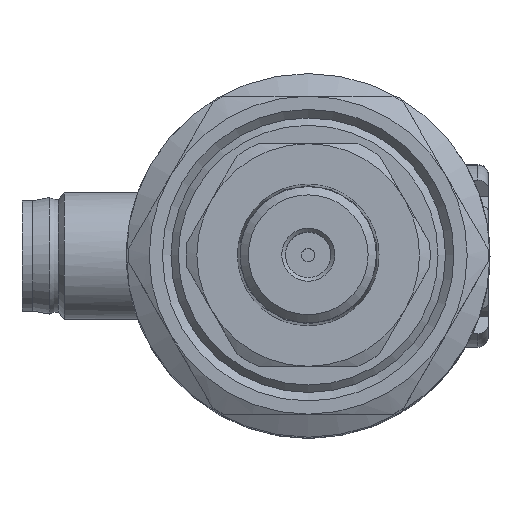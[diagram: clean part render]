
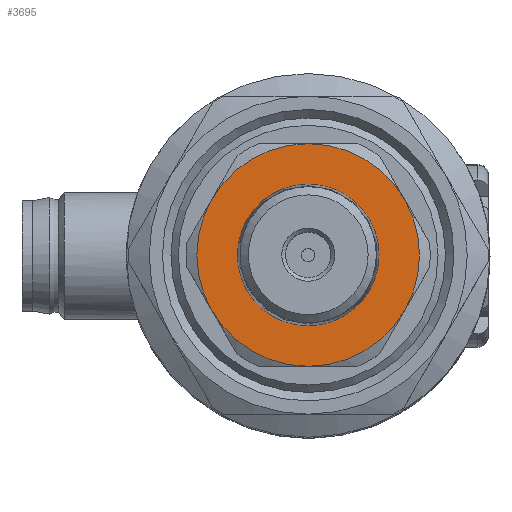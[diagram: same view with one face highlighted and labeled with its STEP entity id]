
A CAD part, top view. The second image highlights one B-rep face of the part: STEP entity #3695.
In plain terms, the highlighted planar face has unit normal (0, 0, 1).
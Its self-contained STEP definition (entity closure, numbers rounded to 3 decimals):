
#3599=CARTESIAN_POINT('',(-3.,-5.196,48.3));
#3600=VERTEX_POINT('',#3599);
#3601=CARTESIAN_POINT('',(0.,0.,48.3));
#3602=DIRECTION('',(0.,0.,1.0));
#3603=DIRECTION('',(0.5,0.866,0.));
#3604=AXIS2_PLACEMENT_3D('',#3601,#3602,#3603);
#3605=CIRCLE('',#3604,6.);
#3606=EDGE_CURVE('',#3600,#3600,#3605,.T.);
#3631=CARTESIAN_POINT('',(0.,0.,48.3));
#3632=DIRECTION('',(0.0,0.0,-1.0));
#3633=DIRECTION('',(0.5,0.866,0.0));
#3634=AXIS2_PLACEMENT_3D('',#3631,#3632,#3633);
#3635=PLANE('',#3634);
#3636=CARTESIAN_POINT('',(-9.093,-5.25,48.3));
#3637=VERTEX_POINT('',#3636);
#3638=CARTESIAN_POINT('',(0.,-10.5,48.3));
#3639=VERTEX_POINT('',#3638);
#3640=CARTESIAN_POINT('',(0.,0.,48.3));
#3641=DIRECTION('',(0.,0.,1.0));
#3642=DIRECTION('',(-0.5,-0.866,0.));
#3643=AXIS2_PLACEMENT_3D('',#3640,#3641,#3642);
#3644=CIRCLE('',#3643,10.5);
#3645=EDGE_CURVE('',#3637,#3639,#3644,.T.);
#3646=ORIENTED_EDGE('',*,*,#3645,.T.);
#3647=CARTESIAN_POINT('',(9.093,-5.25,48.3));
#3648=VERTEX_POINT('',#3647);
#3649=CARTESIAN_POINT('',(0.,0.,48.3));
#3650=DIRECTION('',(0.,0.,1.0));
#3651=DIRECTION('',(-0.5,-0.866,0.));
#3652=AXIS2_PLACEMENT_3D('',#3649,#3650,#3651);
#3653=CIRCLE('',#3652,10.5);
#3654=EDGE_CURVE('',#3639,#3648,#3653,.T.);
#3655=ORIENTED_EDGE('',*,*,#3654,.T.);
#3656=CARTESIAN_POINT('',(9.093,5.25,48.3));
#3657=VERTEX_POINT('',#3656);
#3658=CARTESIAN_POINT('',(0.,0.,48.3));
#3659=DIRECTION('',(0.,0.,1.0));
#3660=DIRECTION('',(-0.5,-0.866,0.));
#3661=AXIS2_PLACEMENT_3D('',#3658,#3659,#3660);
#3662=CIRCLE('',#3661,10.5);
#3663=EDGE_CURVE('',#3648,#3657,#3662,.T.);
#3664=ORIENTED_EDGE('',*,*,#3663,.T.);
#3665=CARTESIAN_POINT('',(0.,10.5,48.3));
#3666=VERTEX_POINT('',#3665);
#3667=CARTESIAN_POINT('',(0.,0.,48.3));
#3668=DIRECTION('',(0.,0.,1.0));
#3669=DIRECTION('',(-0.5,-0.866,0.));
#3670=AXIS2_PLACEMENT_3D('',#3667,#3668,#3669);
#3671=CIRCLE('',#3670,10.5);
#3672=EDGE_CURVE('',#3657,#3666,#3671,.T.);
#3673=ORIENTED_EDGE('',*,*,#3672,.T.);
#3674=CARTESIAN_POINT('',(-9.093,5.25,48.3));
#3675=VERTEX_POINT('',#3674);
#3676=CARTESIAN_POINT('',(0.,0.,48.3));
#3677=DIRECTION('',(0.,0.,1.0));
#3678=DIRECTION('',(-0.5,-0.866,0.));
#3679=AXIS2_PLACEMENT_3D('',#3676,#3677,#3678);
#3680=CIRCLE('',#3679,10.5);
#3681=EDGE_CURVE('',#3666,#3675,#3680,.T.);
#3682=ORIENTED_EDGE('',*,*,#3681,.T.);
#3683=CARTESIAN_POINT('',(0.,0.,48.3));
#3684=DIRECTION('',(0.,0.,1.0));
#3685=DIRECTION('',(-0.5,-0.866,0.));
#3686=AXIS2_PLACEMENT_3D('',#3683,#3684,#3685);
#3687=CIRCLE('',#3686,10.5);
#3688=EDGE_CURVE('',#3675,#3637,#3687,.T.);
#3689=ORIENTED_EDGE('',*,*,#3688,.T.);
#3690=EDGE_LOOP('',(#3646,#3655,#3664,#3673,#3682,#3689));
#3691=FACE_OUTER_BOUND('',#3690,.T.);
#3692=ORIENTED_EDGE('',*,*,#3606,.F.);
#3693=EDGE_LOOP('',(#3692));
#3694=FACE_BOUND('',#3693,.T.);
#3695=ADVANCED_FACE('',(#3691,#3694),#3635,.F.);
